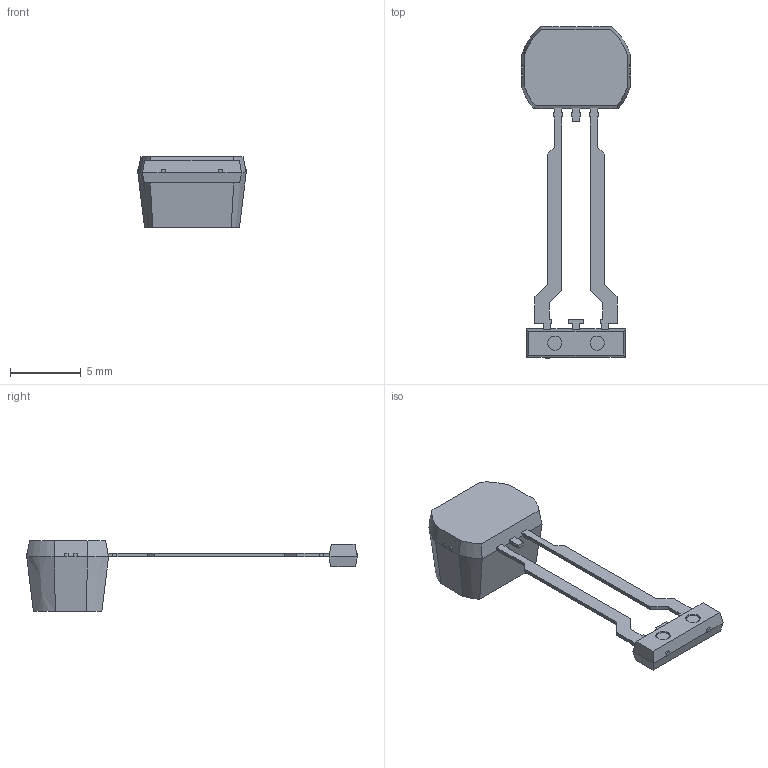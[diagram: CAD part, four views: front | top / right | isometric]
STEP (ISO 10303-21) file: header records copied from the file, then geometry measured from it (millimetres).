
FILE_DESCRIPTION (( 'STEP AP214' ), '1' );
FILE_NAME ('SN.STEP', '2017-03-29T15:09:21', ( '' ), ( '' ), 'SwSTEP 2.0', 'SolidWorks 2015', '' );
FILE_SCHEMA (( 'AUTOMOTIVE_DESIGN' ));
Length unit declared in the file: millimetre
Products named in the file (2): SN; DOE-SQ-main-mold-1pcs
Assembly tree (1 placements, depth 2):
  SN
    DOE-SQ-main-mold-1pcs
Bounding box: 7.75 x 23.46 x 5 mm (x, y, z)
Volume: 209.7 mm3; surface area: 312.2 mm2
Topology: 1 solids, 1 shells, 167 faces, 442 edges, 280 vertices
Faces by surface type: plane 149, cylinder 10, cone 8
Entity records: 5122 total; most frequent: CARTESIAN_POINT 941, ORIENTED_EDGE 884, DIRECTION 800, EDGE_CURVE 442, LINE 394, VECTOR 394, VERTEX_POINT 280, AXIS2_PLACEMENT_3D 203
